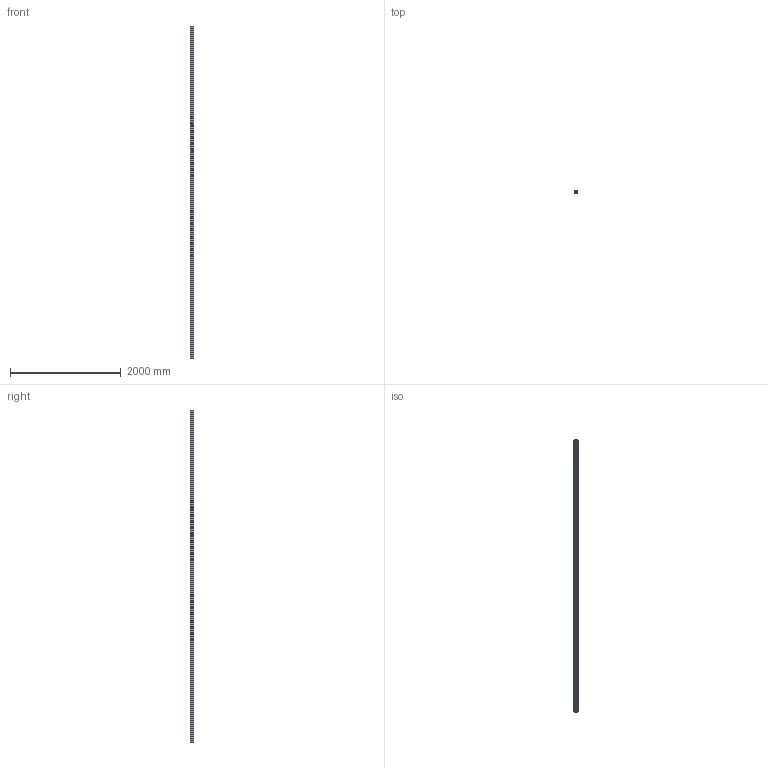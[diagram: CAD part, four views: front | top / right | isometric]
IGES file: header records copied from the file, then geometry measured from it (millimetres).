
Start section: SolidWorks IGES file using analytic representation for surfaces
Global section: file name: C:\Users\Ahmed\Desktop\Aluminium profiles\60x60 Slot 10.IGS; native system: SolidWorks 2016; preprocessor: SolidWorks 2016; author: Ahmed; date: 170808.003916; units: millimetre
Bounding box: 60 x 60 x 6000 mm (x, y, z)
Surface area: 5994548 mm2 (no closed solid volume)
Topology: 0 solids, 0 shells, 290 faces, 2543 edges, 2543 vertices
Faces by surface type: bspline 250, revolution 40
